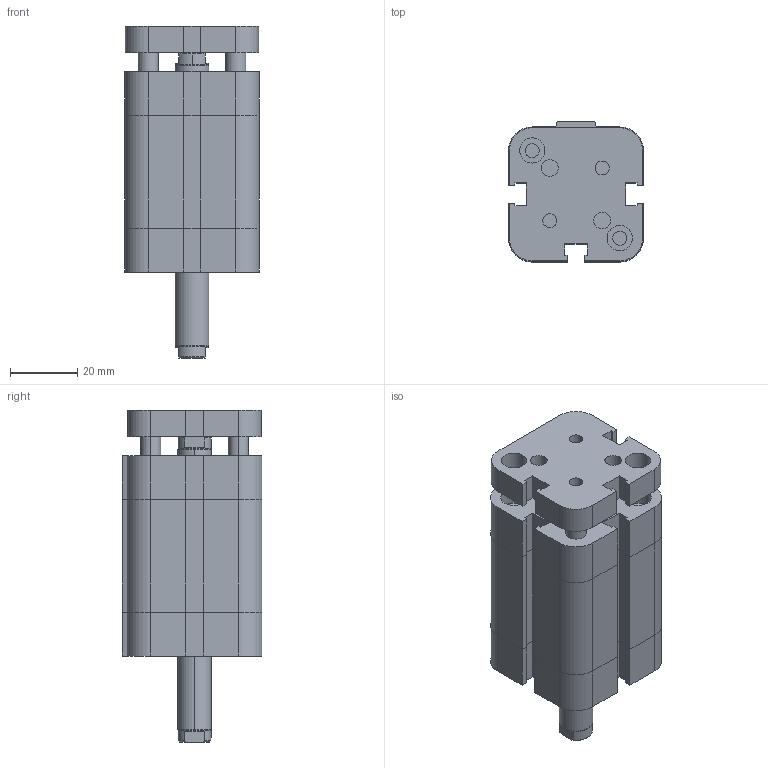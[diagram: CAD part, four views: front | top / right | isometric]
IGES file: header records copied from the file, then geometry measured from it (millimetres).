
Global section: file name: No Iges File Name specified; native system: Autodesk Inventor 2009; preprocessor: AutoDesk Inventor Iges Exporter R2009; author: maffial1; date: 20090420.202020; units: millimetre
Bounding box: 40 x 41.5 x 98.5 mm (x, y, z)
Volume: 98885.6 mm3; surface area: 28091.8 mm2
Topology: 2 solids, 2 shells, 241 faces, 570 edges, 354 vertices
Faces by surface type: plane 135, bspline 72, cylinder 26, cone 8
